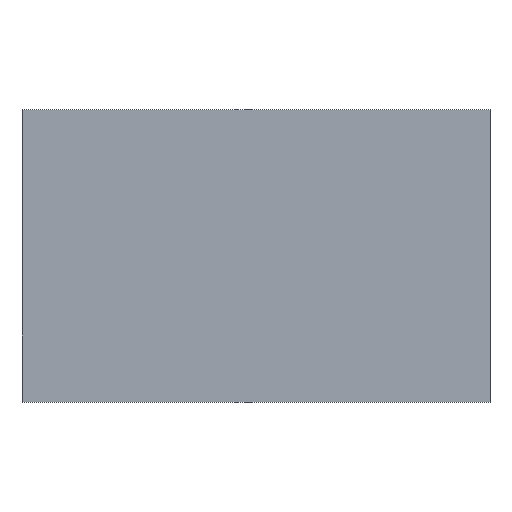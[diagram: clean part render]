
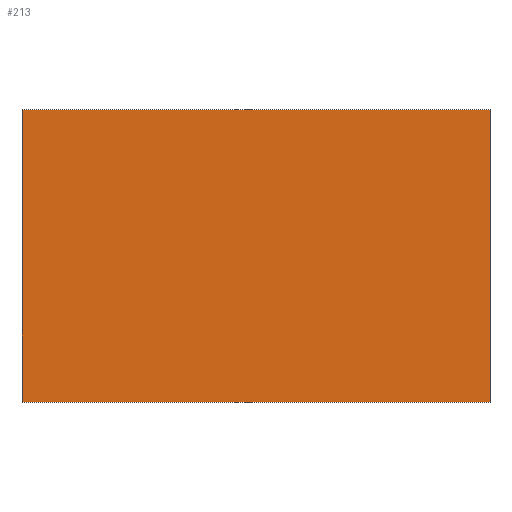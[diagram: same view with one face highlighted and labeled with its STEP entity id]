
A CAD part, top view. The second image highlights one B-rep face of the part: STEP entity #213.
In plain terms, the highlighted planar face has unit normal (0, 0, 1).
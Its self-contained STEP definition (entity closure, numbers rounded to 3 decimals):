
#24 = VERTEX_POINT('',#25);
#25 = CARTESIAN_POINT('',(-0.8,-0.5,0.55));
#32 = PLANE('',#33);
#33 = AXIS2_PLACEMENT_3D('',#34,#35,#36);
#34 = CARTESIAN_POINT('',(-0.8,-0.5,0.02));
#35 = DIRECTION('',(1.,0.,0.));
#36 = DIRECTION('',(0.,0.,1.));
#44 = PLANE('',#45);
#45 = AXIS2_PLACEMENT_3D('',#46,#47,#48);
#46 = CARTESIAN_POINT('',(-0.8,-0.5,0.02));
#47 = DIRECTION('',(0.,1.,0.));
#48 = DIRECTION('',(0.,0.,1.));
#85 = VERTEX_POINT('',#86);
#86 = CARTESIAN_POINT('',(-0.8,0.5,0.55));
#100 = PLANE('',#101);
#101 = AXIS2_PLACEMENT_3D('',#102,#103,#104);
#102 = CARTESIAN_POINT('',(-0.8,0.5,0.02));
#103 = DIRECTION('',(0.,1.,0.));
#104 = DIRECTION('',(0.,0.,1.));
#112 = EDGE_CURVE('',#24,#85,#113,.T.);
#113 = SURFACE_CURVE('',#114,(#118,#125),.PCURVE_S1.);
#114 = LINE('',#115,#116);
#115 = CARTESIAN_POINT('',(-0.8,-0.5,0.55));
#116 = VECTOR('',#117,1.);
#117 = DIRECTION('',(0.,1.,0.));
#118 = PCURVE('',#32,#119);
#119 = DEFINITIONAL_REPRESENTATION('',(#120),#124);
#120 = LINE('',#121,#122);
#121 = CARTESIAN_POINT('',(0.53,0.));
#122 = VECTOR('',#123,1.);
#123 = DIRECTION('',(0.,-1.));
#124 = ( GEOMETRIC_REPRESENTATION_CONTEXT(2) 
PARAMETRIC_REPRESENTATION_CONTEXT() REPRESENTATION_CONTEXT('2D SPACE',''
  ) );
#125 = PCURVE('',#126,#131);
#126 = PLANE('',#127);
#127 = AXIS2_PLACEMENT_3D('',#128,#129,#130);
#128 = CARTESIAN_POINT('',(-0.8,-0.5,0.55));
#129 = DIRECTION('',(0.,0.,1.));
#130 = DIRECTION('',(1.,0.,0.));
#131 = DEFINITIONAL_REPRESENTATION('',(#132),#136);
#132 = LINE('',#133,#134);
#133 = CARTESIAN_POINT('',(0.,0.));
#134 = VECTOR('',#135,1.);
#135 = DIRECTION('',(0.,1.));
#136 = ( GEOMETRIC_REPRESENTATION_CONTEXT(2) 
PARAMETRIC_REPRESENTATION_CONTEXT() REPRESENTATION_CONTEXT('2D SPACE',''
  ) );
#165 = EDGE_CURVE('',#24,#166,#168,.T.);
#166 = VERTEX_POINT('',#167);
#167 = CARTESIAN_POINT('',(0.8,-0.5,0.55));
#168 = SURFACE_CURVE('',#169,(#173,#180),.PCURVE_S1.);
#169 = LINE('',#170,#171);
#170 = CARTESIAN_POINT('',(-0.8,-0.5,0.55));
#171 = VECTOR('',#172,1.);
#172 = DIRECTION('',(1.,0.,0.));
#173 = PCURVE('',#44,#174);
#174 = DEFINITIONAL_REPRESENTATION('',(#175),#179);
#175 = LINE('',#176,#177);
#176 = CARTESIAN_POINT('',(0.53,0.));
#177 = VECTOR('',#178,1.);
#178 = DIRECTION('',(0.,1.));
#179 = ( GEOMETRIC_REPRESENTATION_CONTEXT(2) 
PARAMETRIC_REPRESENTATION_CONTEXT() REPRESENTATION_CONTEXT('2D SPACE',''
  ) );
#180 = PCURVE('',#126,#181);
#181 = DEFINITIONAL_REPRESENTATION('',(#182),#186);
#182 = LINE('',#183,#184);
#183 = CARTESIAN_POINT('',(0.,0.));
#184 = VECTOR('',#185,1.);
#185 = DIRECTION('',(1.,0.));
#186 = ( GEOMETRIC_REPRESENTATION_CONTEXT(2) 
PARAMETRIC_REPRESENTATION_CONTEXT() REPRESENTATION_CONTEXT('2D SPACE',''
  ) );
#202 = PLANE('',#203);
#203 = AXIS2_PLACEMENT_3D('',#204,#205,#206);
#204 = CARTESIAN_POINT('',(0.8,-0.5,0.02));
#205 = DIRECTION('',(1.,0.,0.));
#206 = DIRECTION('',(0.,0.,1.));
#213 = ADVANCED_FACE('',(#214),#126,.T.);
#214 = FACE_BOUND('',#215,.T.);
#215 = EDGE_LOOP('',(#216,#217,#218,#241));
#216 = ORIENTED_EDGE('',*,*,#112,.F.);
#217 = ORIENTED_EDGE('',*,*,#165,.T.);
#218 = ORIENTED_EDGE('',*,*,#219,.T.);
#219 = EDGE_CURVE('',#166,#220,#222,.T.);
#220 = VERTEX_POINT('',#221);
#221 = CARTESIAN_POINT('',(0.8,0.5,0.55));
#222 = SURFACE_CURVE('',#223,(#227,#234),.PCURVE_S1.);
#223 = LINE('',#224,#225);
#224 = CARTESIAN_POINT('',(0.8,-0.5,0.55));
#225 = VECTOR('',#226,1.);
#226 = DIRECTION('',(0.,1.,0.));
#227 = PCURVE('',#126,#228);
#228 = DEFINITIONAL_REPRESENTATION('',(#229),#233);
#229 = LINE('',#230,#231);
#230 = CARTESIAN_POINT('',(1.6,0.));
#231 = VECTOR('',#232,1.);
#232 = DIRECTION('',(0.,1.));
#233 = ( GEOMETRIC_REPRESENTATION_CONTEXT(2) 
PARAMETRIC_REPRESENTATION_CONTEXT() REPRESENTATION_CONTEXT('2D SPACE',''
  ) );
#234 = PCURVE('',#202,#235);
#235 = DEFINITIONAL_REPRESENTATION('',(#236),#240);
#236 = LINE('',#237,#238);
#237 = CARTESIAN_POINT('',(0.53,0.));
#238 = VECTOR('',#239,1.);
#239 = DIRECTION('',(0.,-1.));
#240 = ( GEOMETRIC_REPRESENTATION_CONTEXT(2) 
PARAMETRIC_REPRESENTATION_CONTEXT() REPRESENTATION_CONTEXT('2D SPACE',''
  ) );
#241 = ORIENTED_EDGE('',*,*,#242,.F.);
#242 = EDGE_CURVE('',#85,#220,#243,.T.);
#243 = SURFACE_CURVE('',#244,(#248,#255),.PCURVE_S1.);
#244 = LINE('',#245,#246);
#245 = CARTESIAN_POINT('',(-0.8,0.5,0.55));
#246 = VECTOR('',#247,1.);
#247 = DIRECTION('',(1.,0.,0.));
#248 = PCURVE('',#126,#249);
#249 = DEFINITIONAL_REPRESENTATION('',(#250),#254);
#250 = LINE('',#251,#252);
#251 = CARTESIAN_POINT('',(0.,1.));
#252 = VECTOR('',#253,1.);
#253 = DIRECTION('',(1.,0.));
#254 = ( GEOMETRIC_REPRESENTATION_CONTEXT(2) 
PARAMETRIC_REPRESENTATION_CONTEXT() REPRESENTATION_CONTEXT('2D SPACE',''
  ) );
#255 = PCURVE('',#100,#256);
#256 = DEFINITIONAL_REPRESENTATION('',(#257),#261);
#257 = LINE('',#258,#259);
#258 = CARTESIAN_POINT('',(0.53,0.));
#259 = VECTOR('',#260,1.);
#260 = DIRECTION('',(0.,1.));
#261 = ( GEOMETRIC_REPRESENTATION_CONTEXT(2) 
PARAMETRIC_REPRESENTATION_CONTEXT() REPRESENTATION_CONTEXT('2D SPACE',''
  ) );
